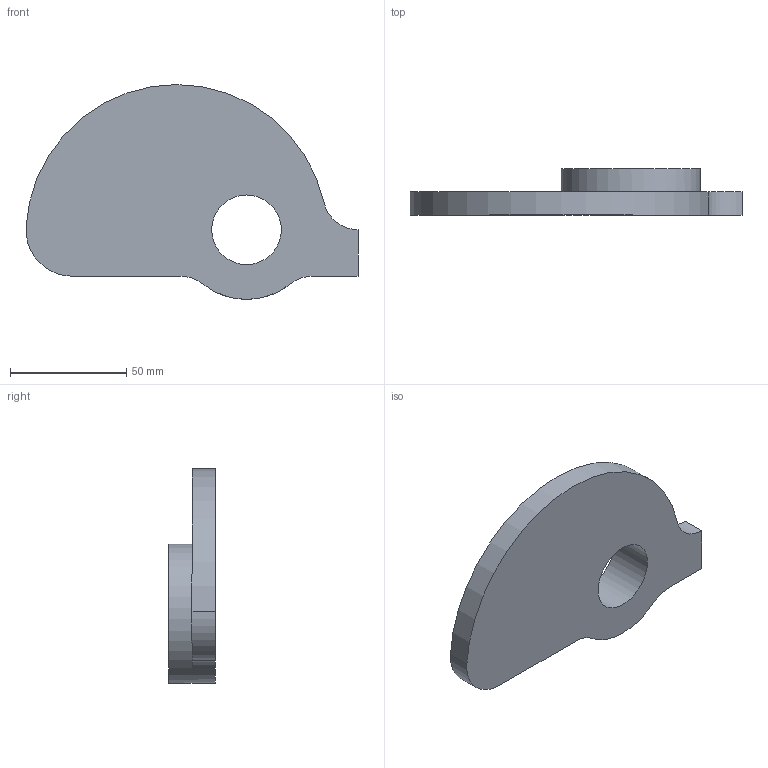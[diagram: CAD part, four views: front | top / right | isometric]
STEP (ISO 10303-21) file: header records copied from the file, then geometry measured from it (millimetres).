
FILE_DESCRIPTION(/* description */ (''),/* implementation_level */ '2;1');
FILE_NAME(/* name */ 'E:\OneDrive\Desktop\HGC_Tangency_04_2021\3D CAD Models\Task_6_HGC_Tangency_v1.stp',/* time_stamp */ '2021-04-10T20:31:49+01:00',/* author */ ('hunte'),/* organization */ (''),/* preprocessor_version */ 'ST-DEVELOPER v18.1',/* originating_system */ 'Autodesk Inventor 2020',/* authorisation */ '');
FILE_SCHEMA (('AUTOMOTIVE_DESIGN { 1 0 10303 214 3 1 1 }'));
Length unit declared in the file: millimetre
Products named in the file (1): Task_6_HGC_Tangency_v1
Bounding box: 142.97 x 20 x 92.53 mm (x, y, z)
Volume: 108527.8 mm3; surface area: 25101.2 mm2
Topology: 1 solids, 1 shells, 13 faces, 34 edges, 23 vertices
Faces by surface type: cylinder 7, plane 6
Full cylindrical faces by diameter (mm): 30 x1, 60 x1
Entity records: 458 total; most frequent: DIRECTION 79, CARTESIAN_POINT 71, ORIENTED_EDGE 68, EDGE_CURVE 34, AXIS2_PLACEMENT_3D 31, VERTEX_POINT 23, LINE 17, VECTOR 17
